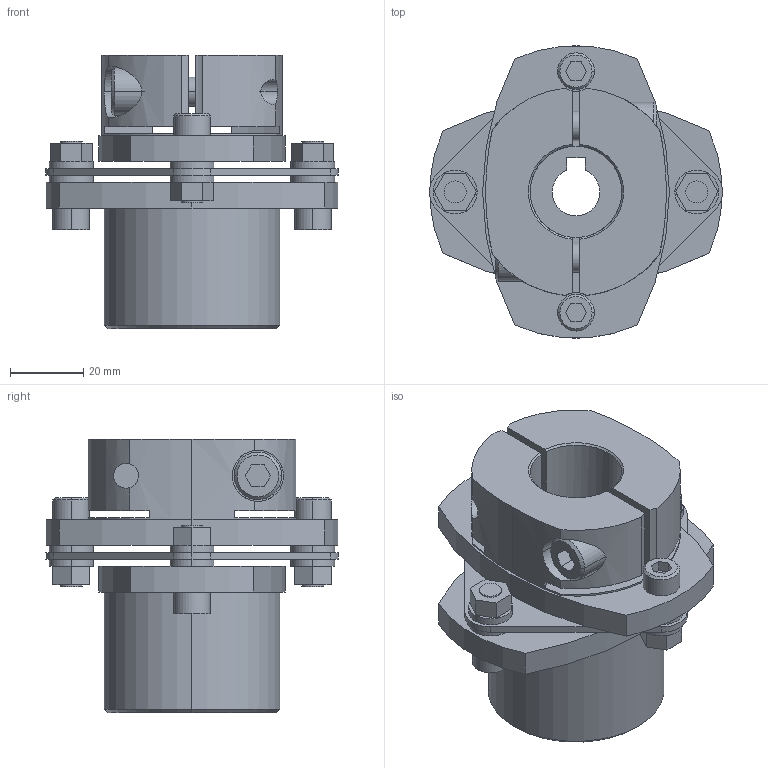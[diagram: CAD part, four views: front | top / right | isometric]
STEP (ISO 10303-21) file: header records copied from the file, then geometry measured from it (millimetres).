
FILE_DESCRIPTION((''),'2;1');
FILE_NAME('LCS-80M-16L亊25B.stp','2015-10-27T19:15:38',(''),(''),'AutoCAD STEP 2000i','AutoCAD 2000i',', , ');
FILE_SCHEMA(('CONFIG_CONTROL_DESIGN'));
Length unit declared in the file: millimetre
Products named in the file (7): LCS-80M-16L×20B; 忣兜1; LC80-B020; LC80M-L016; LC80-B015-1; LC80-B015; LCS80-ITA
Assembly tree (6 placements, depth 2):
  LCS-80M-16L×20B
    忣兜1
    LC80-B020
    LC80M-L016
    LC80-B015-1
    LC80-B015
    LCS80-ITA
Bounding box: 80 x 79.95 x 74.75 mm (x, y, z)
Volume: 139482 mm3; surface area: 41385.3 mm2
Topology: 1 solids, 1 shells, 230 faces, 580 edges, 382 vertices
Faces by surface type: plane 115, cylinder 96, cone 19
Entity records: 7435 total; most frequent: CARTESIAN_POINT 1523, DIRECTION 1254, ORIENTED_EDGE 1160, EDGE_CURVE 580, AXIS2_PLACEMENT_3D 459, VERTEX_POINT 382, VECTOR 336, LINE 336
